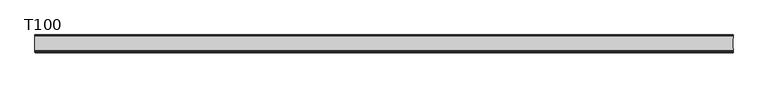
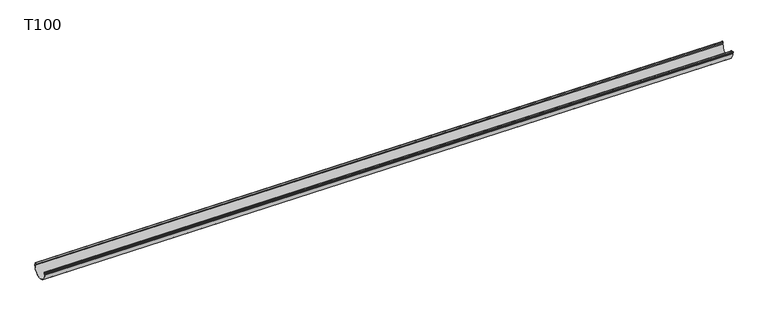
"""IFC4 building model written with IfcOpenShell, lengths in millimetres: proxy geometry, GROVIK_Gutter_Straight : T100."""

from ifc_helpers import new_model, si_unit, point, frame, frame_2d, origin, place, context, project, spatial, polyline, circle_curve, trimmed, segment, composite_curve, outline, extrude, source, transform, mapped, element, save


def t100_1d9620c0(model_context):
    return source(origin(), model_context, "Body", "SweptSolid", [
        extrude(outline(composite_curve([segment(polyline([(95.6785725, -12.9222473), (100.8871557, -13.3779392)]), True, "CONTINUOUS"), segment(trimmed(circle_curve(frame_2d((100.8, -14.374134)), 1.0), [point((100.8871557, -13.3779392))], [point((101.8, -14.374134))], False, "CARTESIAN"), True, "CONTINUOUS"), segment(polyline([(101.8, -14.374134), (101.8, -16.3578027)]), True, "CONTINUOUS"), segment(trimmed(circle_curve(frame_2d((50.9, -16.3578027)), 50.9), [point((101.8, -16.3578027))], [point((0.0, -16.3578027))], False, "CARTESIAN"), True, "CONTINUOUS"), segment(polyline([(0.0, -16.3578027), (0.0, -0.5)]), True, "CONTINUOUS"), segment(trimmed(circle_curve(frame_2d((0.5, -0.5)), 0.5), [point((0.0, -0.5))], [point((0.8213938, -0.1169777))], False, "CARTESIAN"), True, "CONTINUOUS"), segment(polyline([(0.8213938, -0.1169777), (6.2279844, -4.653646), (5.6494755, -5.3430859), (0.9, -1.3578028), (0.9, -16.3578027)]), True, "CONTINUOUS"), segment(trimmed(circle_curve(frame_2d((50.9, -16.3578027)), 50.0), [point((0.9, -16.3578027))], [point((100.9, -16.3578027))], True, "CARTESIAN"), True, "CONTINUOUS"), segment(polyline([(100.9, -16.3578027), (100.9, -14.2825009), (95.683723, -13.8261358)]), True, "CONTINUOUS"), segment(trimmed(circle_curve(frame_2d((95.683723, -12.9170968)), 0.909039), [point((95.683723, -13.8261358))], [point((94.7746841, -12.9170968))], False, "CARTESIAN"), True, "CONTINUOUS"), segment(polyline([(94.7746841, -12.9170968), (93.9345391, -3.3141955)]), True, "CONTINUOUS"), segment(trimmed(circle_curve(frame_2d((94.9307338, -3.2270397)), 1.0), [point((93.9345391, -3.3141955))], [point((94.7570856, -2.242232))], False, "CARTESIAN"), True, "CONTINUOUS"), segment(polyline([(94.7570856, -2.242232), (104.6051631, -0.5057502)]), True, "CONTINUOUS"), segment(trimmed(circle_curve(frame_2d((104.6923189, -1.5019449)), 1.0), [point((104.6051631, -0.5057502))], [point((105.6885136, -1.4147891))], False, "CARTESIAN"), True, "CONTINUOUS"), segment(polyline([(105.6885136, -1.4147891), (106.1850202, -7.0898859)]), True, "CONTINUOUS"), segment(trimmed(circle_curve(frame_2d((105.1888255, -7.1770416)), 1.0), [point((106.1850202, -7.0898859))], [point((105.0151773, -8.1618494))], False, "CARTESIAN"), True, "CONTINUOUS"), segment(polyline([(105.0151773, -8.1618494), (98.1850202, -6.9575083), (98.3413035, -6.0711814), (105.2998033, -7.2981527), (104.7816977, -1.3761787), (94.8220658, -3.1323305), (95.6785725, -12.9222473)]), True, "CONTINUOUS")], self_intersect=False)), frame((4240.0, 0.0, -41.2), z_axis=(-0.9999500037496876, 0.0, 0.00999950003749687), x_axis=(0.0, -1.0, 0.0)), (0.0, 0.0, 1.0), 4120.2059949),
    ])


if __name__ == "__main__":
    model = new_model("IFC4")
    model_context = context("Model", 3, world=origin())
    ifc_project = project(units=[si_unit("LENGTHUNIT", "METRE", prefix="MILLI")], contexts=[model_context])
    site = spatial("IfcSite", under=ifc_project)
    building = spatial("IfcBuilding", under=site)
    placement = place(None, origin())
    t100_shape = t100_1d9620c0(model_context)
    element("IfcBuildingElementProxy", 1, Name="GROVIK_Gutter_Straight : T100", ObjectType="GROVIK_Gutter_Straight : T100", at=placement, inside=building, context=model_context, shape_type="MappedRepresentation", body=[
        mapped(t100_shape, transform((0.0, 0.0, 0.0), x_axis=(1.0, 0.0, 0.0), y_axis=(0.0, 1.0, 0.0), z_axis=(0.0, 0.0, 1.0))),
    ])
    save(model, "model.ifc")
